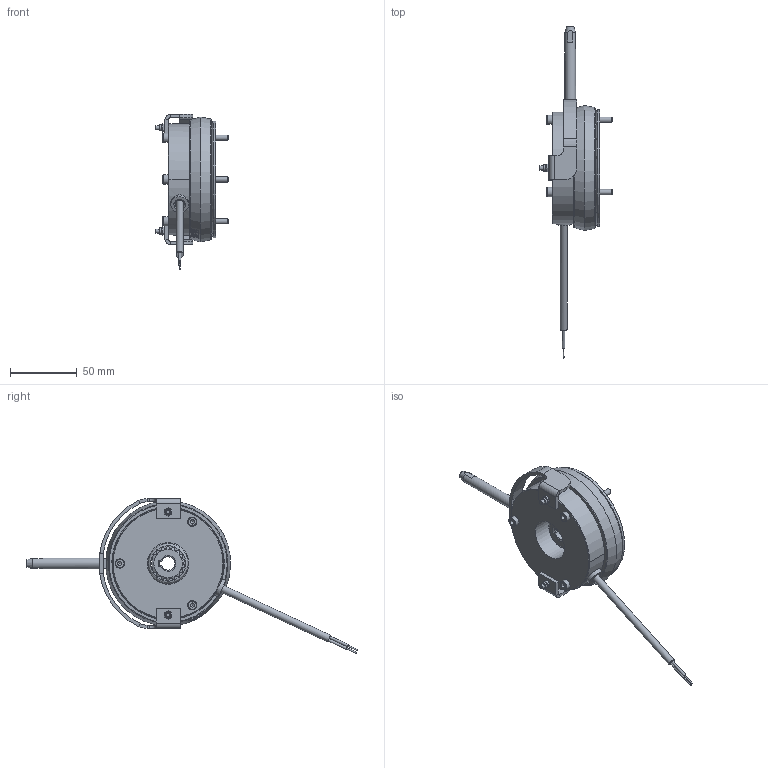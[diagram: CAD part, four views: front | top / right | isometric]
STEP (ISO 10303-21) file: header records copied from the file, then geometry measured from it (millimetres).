
FILE_DESCRIPTION(/* description */ (''),/* implementation_level */ '2;1');
FILE_NAME(/* name */ 'C:\SapWorkDir\Inventor\IP1\ConvertTempPath\5029477_IPT_000.ipt.stp',/* time_stamp */ '2021-04-20T13:57:20+02:00',/* author */ ('WOELK'),/* organization */ (''),/* preprocessor_version */ 'ST-DEVELOPER v17',/* originating_system */ 'Autodesk Inventor 2018',/* authorisation */ '');
FILE_SCHEMA (('AUTOMOTIVE_DESIGN { 1 0 10303 214 3 1 1 }'));
Length unit declared in the file: millimetre
Products named in the file (1): 5029477
Bounding box: 54.6 x 247.71 x 115.71 mm (x, y, z)
Volume: 179038.7 mm3; surface area: 69348.8 mm2
Topology: 1 solids, 1 shells, 652 faces, 1909 edges, 1263 vertices
Faces by surface type: plane 259, cylinder 213, bspline 80, cone 62, torus 38
Full cylindrical faces by diameter (mm): 1 x2, 1.85 x2, 3 x4, 3.242 x3, 4 x5, 4.134 x1, 4.15 x3, 4.2 x5, 4.4 x3, 4.57 x2, 4.6 x2, 5.3 x1, 5.5 x1, 6.188 x3, 6.6 x1, 6.7 x1, 7 x6, 7.3 x3, 8 x1, 9 x3, 13.2 x1, 29.4 x1, 31 x3, 60 x1, 83 x1, 87 x2
Entity records: 27841 total; most frequent: CARTESIAN_POINT 9988, ORIENTED_EDGE 3810, DIRECTION 3411, EDGE_CURVE 1905, AXIS2_PLACEMENT_3D 1339, VERTEX_POINT 1263, CIRCLE 766, EDGE_LOOP 742
